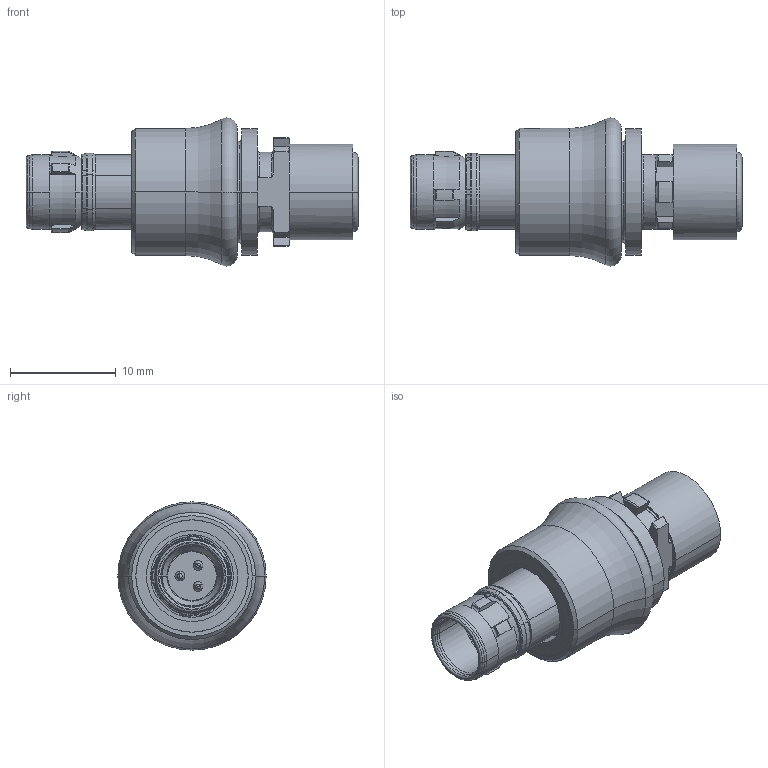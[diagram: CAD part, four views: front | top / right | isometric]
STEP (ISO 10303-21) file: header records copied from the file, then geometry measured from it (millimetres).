
FILE_DESCRIPTION((''),'2;1');
FILE_NAME('S10Y_R-P03XJG0-0000','2020-10-27T07:08:39',('EUnterhaslberger'),(''),'CREO PARAMETRIC BY PTC INC, 2018300','CREO PARAMETRIC BY PTC INC, 2018300','');
FILE_SCHEMA(('AP242_MANAGED_MODEL_BASED_3D_ENGINEERING_MIM_LF { 1 0 10303 442 1 1 4 }'));
Length unit declared in the file: millimetre
Products named in the file (1): S10Y_R-P03XJG0-0000
Bounding box: 31.35 x 14 x 14 mm (x, y, z)
Volume: 1608.2 mm3; surface area: 3548.7 mm2
Topology: 1 solids, 2 shells, 636 faces, 1706 edges, 1077 vertices
Faces by surface type: cylinder 169, plane 153, torus 149, cone 110, revolution 43, bspline 6, sphere 6
Entity records: 26086 total; most frequent: CARTESIAN_POINT 5426, DIRECTION 3448, ORIENTED_EDGE 3388, EDGE_CURVE 1694, AXIS2_PLACEMENT_3D 1450, VERTEX_POINT 1077, CIRCLE 863, EDGE_LOOP 681
